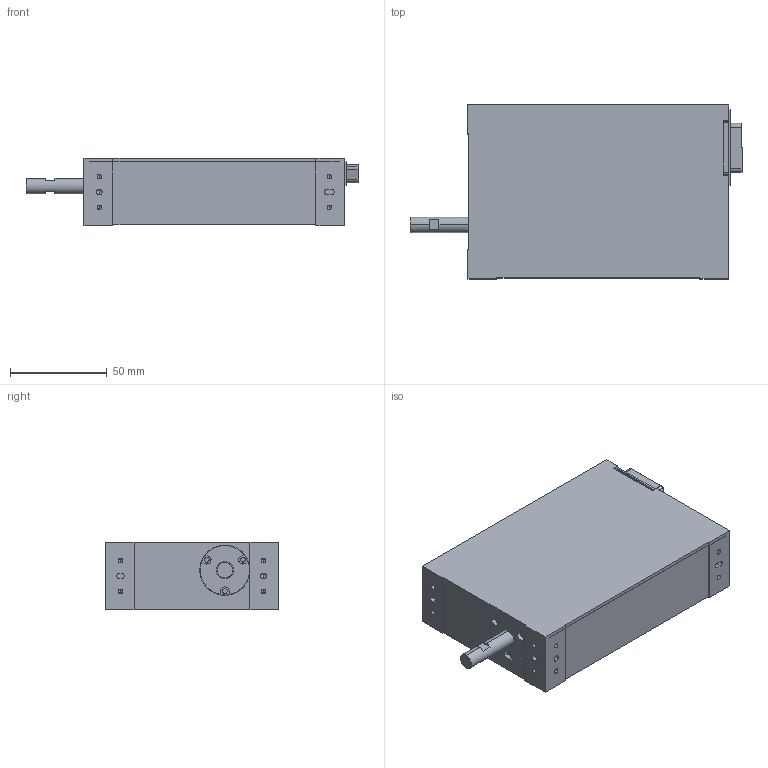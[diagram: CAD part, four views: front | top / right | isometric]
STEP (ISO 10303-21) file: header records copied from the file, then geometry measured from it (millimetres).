
FILE_DESCRIPTION((''),'2;1');
FILE_NAME('LAL35-050-5_D.stp','2005-09-16T10:43:37',(''),(''),'Mechanical Desktop 2005','Mechanical Desktop 2005',', , ');
FILE_SCHEMA(('CONFIG_CONTROL_DESIGN'));
Length unit declared in the file: millimetre
Products named in the file (3): LAL35-050-5_D; ~~COVER; DB26-3Ddwg
Assembly tree (2 placements, depth 2):
  LAL35-050-5_D
    ~~COVER
    DB26-3Ddwg
Bounding box: 171.81 x 90 x 35 mm (x, y, z)
Volume: 418309.7 mm3; surface area: 68458.6 mm2
Topology: 2 solids, 2 shells, 345 faces, 825 edges, 529 vertices
Faces by surface type: cylinder 185, plane 138, cone 22
Entity records: 10124 total; most frequent: DIRECTION 1891, CARTESIAN_POINT 1680, ORIENTED_EDGE 1606, EDGE_CURVE 803, AXIS2_PLACEMENT_3D 740, VERTEX_POINT 529, EDGE_LOOP 424, VECTOR 411
